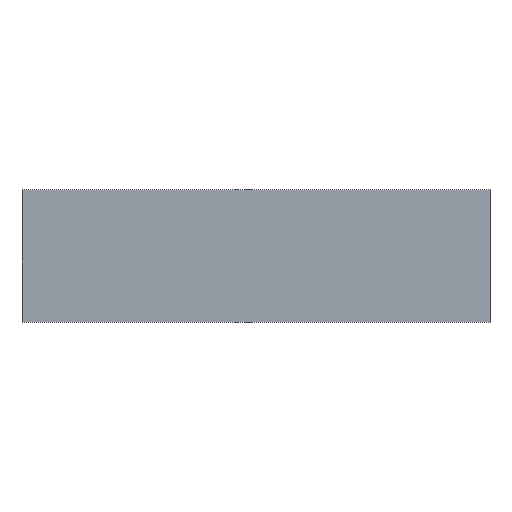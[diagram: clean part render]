
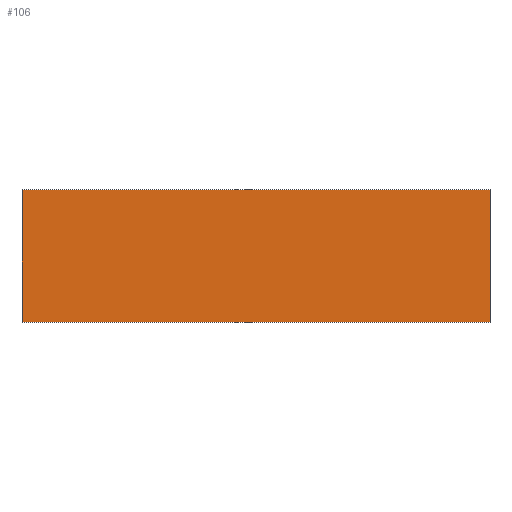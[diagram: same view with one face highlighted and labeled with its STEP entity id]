
A CAD part, top view. The second image highlights one B-rep face of the part: STEP entity #106.
In plain terms, the highlighted planar face has unit normal (0, 0, 1).
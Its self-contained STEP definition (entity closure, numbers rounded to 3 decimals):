
#20=FACE_OUTER_BOUND('',#26,.T.);
#26=EDGE_LOOP('',(#91,#92,#93,#94));
#29=LINE('',#161,#41);
#32=LINE('',#167,#44);
#35=LINE('',#173,#47);
#38=LINE('',#177,#50);
#41=VECTOR('',#133,10.);
#44=VECTOR('',#138,10.);
#47=VECTOR('',#143,10.);
#50=VECTOR('',#148,10.);
#53=VERTEX_POINT('',#158);
#54=VERTEX_POINT('',#160);
#56=VERTEX_POINT('',#166);
#58=VERTEX_POINT('',#172);
#61=EDGE_CURVE('',#54,#53,#29,.T.);
#64=EDGE_CURVE('',#56,#54,#32,.T.);
#67=EDGE_CURVE('',#58,#56,#35,.T.);
#70=EDGE_CURVE('',#53,#58,#38,.T.);
#91=ORIENTED_EDGE('',*,*,#70,.T.);
#92=ORIENTED_EDGE('',*,*,#67,.T.);
#93=ORIENTED_EDGE('',*,*,#64,.T.);
#94=ORIENTED_EDGE('',*,*,#61,.T.);
#100=PLANE('',#126);
#106=ADVANCED_FACE('',(#20),#100,.T.);
#126=AXIS2_PLACEMENT_3D('',#179,#151,#152);
#133=DIRECTION('',(0.,1.,0.));
#138=DIRECTION('',(1.,0.,0.));
#143=DIRECTION('',(0.,-1.,0.));
#148=DIRECTION('',(-1.,0.,0.));
#151=DIRECTION('center_axis',(0.,0.,1.));
#152=DIRECTION('ref_axis',(1.,0.,0.));
#158=CARTESIAN_POINT('',(41.8,-24.2,9.));
#160=CARTESIAN_POINT('',(41.8,-47.8,9.));
#161=CARTESIAN_POINT('',(41.8,-47.8,9.));
#166=CARTESIAN_POINT('',(-41.8,-47.8,9.));
#167=CARTESIAN_POINT('',(-41.8,-47.8,9.));
#172=CARTESIAN_POINT('',(-41.8,-24.2,9.));
#173=CARTESIAN_POINT('',(-41.8,-24.2,9.));
#177=CARTESIAN_POINT('',(41.8,-24.2,9.));
#179=CARTESIAN_POINT('Origin',(0.,-36.,9.));
